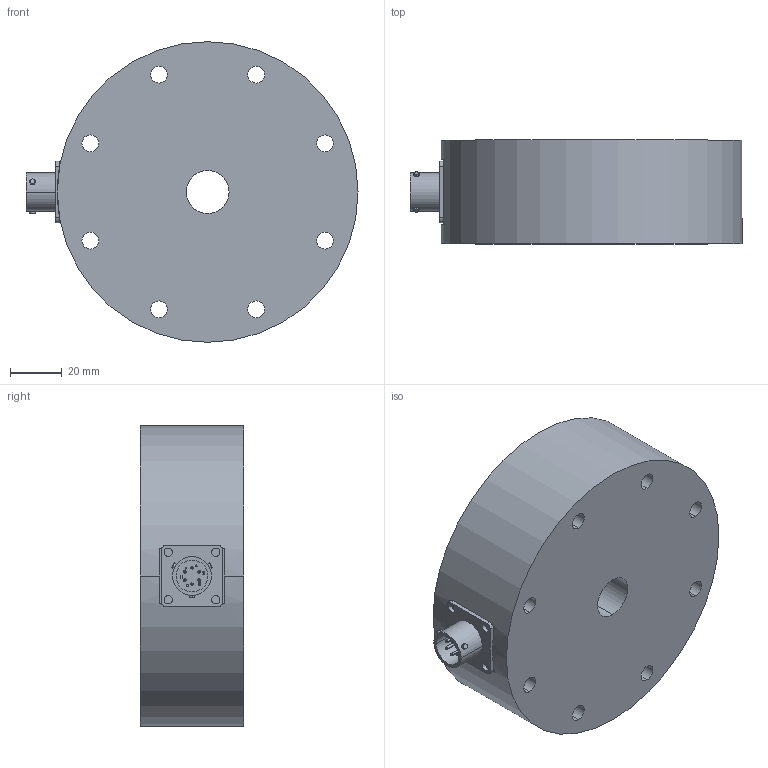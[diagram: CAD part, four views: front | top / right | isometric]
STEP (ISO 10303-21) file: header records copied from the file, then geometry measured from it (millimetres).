
FILE_DESCRIPTION (( 'STEP AP203' ), '1' );
FILE_NAME ('TH completa.STEP', '2016-03-04T13:23:11', ( 'User' ), ( '' ), 'SwSTEP 2.0', 'SolidWorks 2015', '' );
FILE_SCHEMA (( 'CONFIG_CONTROL_DESIGN' ));
Length unit declared in the file: millimetre
Products named in the file (1): TH completa
Bounding box: 128.1 x 40 x 116 mm (x, y, z)
Volume: 402046.9 mm3; surface area: 47089 mm2
Topology: 2 solids, 2 shells, 291 faces, 743 edges, 488 vertices
Faces by surface type: plane 153, cylinder 70, bspline 56, torus 12
Entity records: 12040 total; most frequent: CARTESIAN_POINT 5091, ORIENTED_EDGE 1486, DIRECTION 1263, EDGE_CURVE 743, VERTEX_POINT 488, LINE 447, VECTOR 447, AXIS2_PLACEMENT_3D 408
